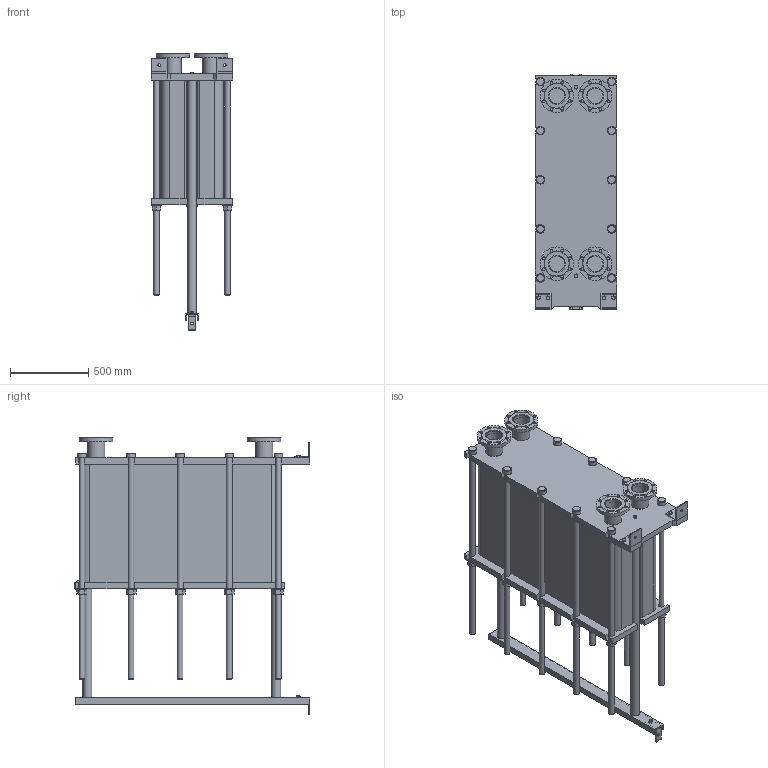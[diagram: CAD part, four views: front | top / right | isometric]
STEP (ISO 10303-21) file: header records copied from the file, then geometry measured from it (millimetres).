
FILE_DESCRIPTION(/* description */ (''),/* implementation_level */ '2;1');
FILE_NAME(/* name */ 'C:\Users\zhuro\Desktop\ENCO\TO\ЭН-04\ЭН-0,5-04-220-1.stp',/* time_stamp */ '2022-06-06T11:05:05+03:00',/* author */ ('zhuro'),/* organization */ (''),/* preprocessor_version */ 'ST-DEVELOPER v18.1',/* originating_system */ 'Autodesk Inventor 2022',/* authorisation */ '');
FILE_SCHEMA (('AUTOMOTIVE_DESIGN { 1 0 10303 214 3 1 1 }'));
Length unit declared in the file: millimetre
Products named in the file (1): ЭН-0,5-04-220-1
Bounding box: 520 x 1510 x 1775 mm (x, y, z)
Volume: 456980495.7 mm3; surface area: 10994073.3 mm2
Topology: 45 solids, 45 shells, 668 faces, 1611 edges, 1048 vertices
Faces by surface type: plane 457, cylinder 166, cone 39, torus 6
Full cylindrical faces by diameter (mm): 8 x4, 10 x2, 16 x8, 18 x35, 36 x25, 40 x2, 42 x1, 45 x4, 54 x10, 57 x2, 60 x10, 68 x2, 100 x4, 110 x8, 215 x4
Entity records: 23607 total; most frequent: CARTESIAN_POINT 7348, DIRECTION 3371, ORIENTED_EDGE 3142, EDGE_CURVE 1571, AXIS2_PLACEMENT_3D 1199, VERTEX_POINT 1044, LINE 973, VECTOR 973
